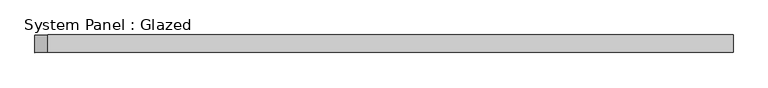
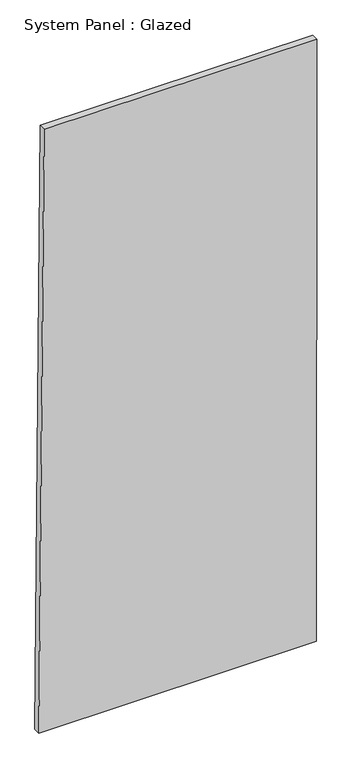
"""IFC4 building model written with IfcOpenShell, lengths in millimetres: plate geometry, System Panel : Glazed."""

from ifc_helpers import new_model, si_unit, frame, origin, place, context, project, spatial, polyline, outline, extrude, source, transform, mapped, element, save


def system_panel_glazed_9e20f47e(model_context):
    return source(origin(), model_context, "Body", "SweptSolid", [
        extrude(outline(polyline([(0.0, -501.0839201), (0.0, 499.1674108), (2294.3217729, 501.0839201), (2295.9784453, -482.5944223), (0.0, -501.0839201)])), frame((0.0, -49.5, 0.0), z_axis=(0.0, 1.0, 0.0), x_axis=(0.0, 0.0, 1.0)), (0.0, 0.0, 1.0), 25.0),
    ])


if __name__ == "__main__":
    model = new_model("IFC4")
    model_context = context("Model", 3, world=origin())
    ifc_project = project(units=[si_unit("LENGTHUNIT", "METRE", prefix="MILLI")], contexts=[model_context])
    site = spatial("IfcSite", under=ifc_project)
    building = spatial("IfcBuilding", under=site)
    placement = place(None, origin())
    system_panel_glazed_shape = system_panel_glazed_9e20f47e(model_context)
    element("IfcPlate", 1, ObjectType="System Panel : Glazed", at=placement, inside=building, context=model_context, shape_type="MappedRepresentation", body=[
        mapped(system_panel_glazed_shape, transform((0.0, 0.0, 0.0), x_axis=(1.0, 0.0, 0.0), y_axis=(0.0, 1.0, 0.0), z_axis=(0.0, 0.0, 1.0))),
    ])
    save(model, "model.ifc")
